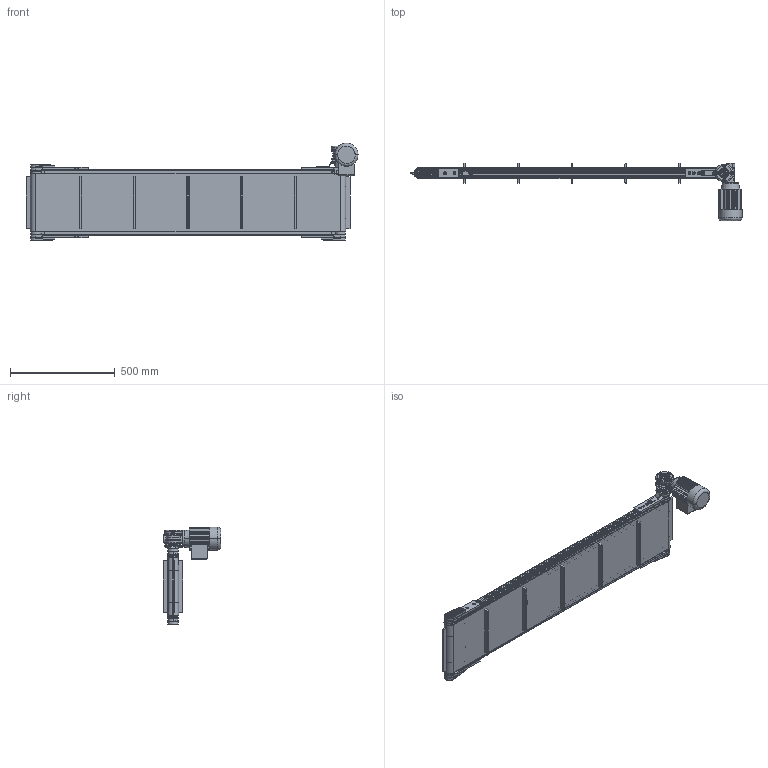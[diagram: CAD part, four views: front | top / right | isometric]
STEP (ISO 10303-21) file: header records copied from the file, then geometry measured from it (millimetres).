
FILE_DESCRIPTION (( 'STEP AP203' ), '1' );
FILE_NAME ('NASTRO_RETTILINEO_TAPPETO.step', '2026-04-23T13:04:57', ( 'Utente Windows' ), ( '' ), 'SwSTEP 2.0', 'SolidWorks 2024', '' );
FILE_SCHEMA (( 'CONFIG_CONTROL_DESIGN' ));
Length unit declared in the file: millimetre
Products named in the file (44): 084.302.000 DADI ALUSIC 13x13-1_084.302.004; VITI TSEI UNI 5933_M5x12 UNI 5933; 084.811.001; 084.802.061; BLOCCO_BRACCIO_CH03P_VF30P; 084.301.000 VITI ALUSIC_084.301.009; VITI TSEI UNI 5933_M4x12 UNI 5933; BLOCCO_TRAINO_50_STANDARD_30_DX; RULLO_50_Default<A macchina>; 084.802.071; NASTRO_RETTILINEO_TAPPETO; 084.802.008; LAMIERA_STANDARD; 084.302.000 DADI ALUSIC 13x13-1_084.302.007; BLOCCO_RINVIO_50_STANDARD; 084.808.012; 084.302.000 DADI ALUSIC 13x13_084.302.004; VITE_DADO_M5X12; VITE_RONDELLA_M8X20; BLOCCO_PERNO_50_RINVIO; TAPPETO_STANDARD; VITI TSEI UNI 5933 INOX_0412UNI5933A2; 084.803.018; VITI TSEI UNI 5933_M4x10 UNI 5933; 14UNI7435; 084.802.065_Default<A macchina>; BLOCCO_PERNO_50_30; 084.810.001; TELAIO_50_STANDARD_Default<A macchina>; 084.811.004; 084.807.002_084.807.002; 084.802.017_084.802.017; BLOCCO_TRAINO_50_STANDARD; 084.303.001; VITI TCEI UNI 5931_M4x25 UNI 5931; 084.807.003_084.807.003<A macchina>; CH03P_DX; VITI TCEI UNI 5931_M6x12 UNI 5931; CHIAVETTE_A 5x5x40 UNI 6604-69; 084.301.000 VITI ALUSIC_084.301.003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
Assembly tree (87 placements, depth 4):
  NASTRO_RETTILINEO_TAPPETO
    TAPPETO_STANDARD
    TELAIO_50_STANDARD_Default<A macchina>
    LAMIERA_STANDARD
    RULLO_50_Default<A macchina>  x2
    BLOCCO_PERNO_50_30
      084.810.001
      084.811.001
      RONDELLE FASCIA LARGA UNI 6593_5.4x20 UNI 6593
      084.301.000 VITI ALUSIC_084.301.009
      CHIAVETTE_A 5x5x40 UNI 6604-69
      CHIAVETTE_A 5x5x20 UNI 6604-69
      14UNI7435
    BLOCCO_TRAINO_50_STANDARD_30_DX
      084.807.003_084.807.003<A macchina>
      084.802.017_084.802.017
      084.301.000 VITI ALUSIC_084.301.003  x2
      084.302.000 DADI ALUSIC 13x13-1_084.302.004  x2
      BLOCCO_BRACCIO_CH03P_VF30P
        084.808.012
        084.802.062
        084.802.061
        VITI TE UNI 5739_M6x16 UNI 5739  x4
        084.803.018
        VITI TCEI UNI 5931_M6x12 UNI 5931  x4
      084.802.065_Default<A macchina>
      VITI TCEI UNI 5931_M4x25 UNI 5931  x2
    BLOCCO_PERNO_50_RINVIO  x3
      084.811.004
      084.810.001
    BLOCCO_TRAINO_50_STANDARD
      084.807.002_084.807.002
      084.802.017_084.802.017
      084.301.000 VITI ALUSIC_084.301.003  x2
      084.302.000 DADI ALUSIC 13x13-1_084.302.004  x2
      VITI TSEI UNI 5933_M4x12 UNI 5933  x4
      084.802.071
      VITI TSEI UNI 5933 INOX_0412UNI5933A2  x2
    BLOCCO_RINVIO_50_STANDARD  x2
      084.807.002_084.807.002
      084.802.017_084.802.017
      084.802.008
      084.301.000 VITI ALUSIC_084.301.003
      084.302.000 DADI ALUSIC 13x13_084.302.004
      VITI TSEI UNI 5933_M4x10 UNI 5933
      084.802.071
    VITE_RONDELLA_M8X20  x5
      084.303.001
      084.301.000 VITI ALUSIC_084.301.003
    VITE_DADO_M5X12  x8
      084.302.000 DADI ALUSIC 13x13-1_084.302.007
      VITI TSEI UNI 5933_M5x12 UNI 5933
    CH03P_DX
Bounding box: 1582 x 274 x 465 mm (x, y, z)
Volume: 7912579.2 mm3; surface area: 5661082 mm2
Topology: 136 solids, 142 shells, 6167 faces, 15892 edges, 10170 vertices
Faces by surface type: plane 3069, cylinder 1658, cone 567, bspline 506, torus 329, sphere 38
Entity records: 131842 total; most frequent: CARTESIAN_POINT 37772, ORIENTED_EDGE 19026, DIRECTION 17784, EDGE_CURVE 9513, AXIS2_PLACEMENT_3D 6192, VERTEX_POINT 6130, LINE 5400, VECTOR 5400
